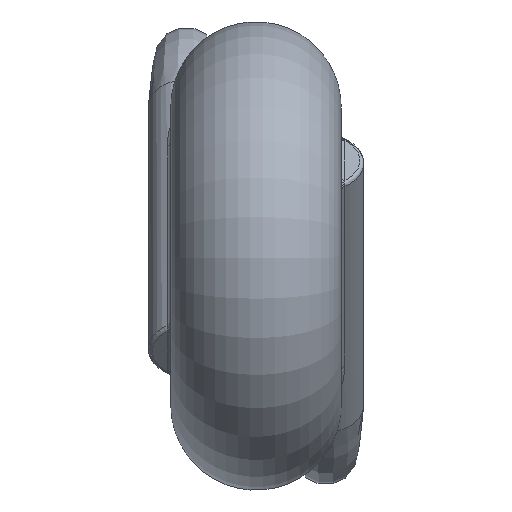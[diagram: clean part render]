
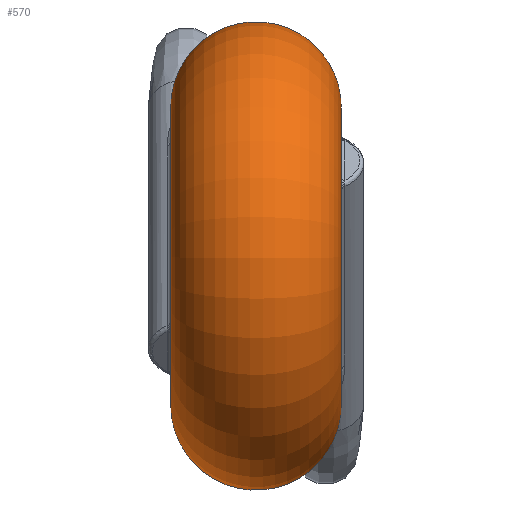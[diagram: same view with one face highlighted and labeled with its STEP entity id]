
A CAD part, left-side view. The second image highlights one B-rep face of the part: STEP entity #570.
In plain terms, the highlighted toroidal (fillet/blend) face has major radius 3.945 mm and minor radius 2.255 mm.
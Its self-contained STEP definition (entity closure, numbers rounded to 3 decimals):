
#20=TOROIDAL_SURFACE('',#632,3.945,2.255);
#81=B_SPLINE_CURVE_WITH_KNOTS('',3,(#1644,#1645,#1646,#1647,#1648,#1649,
#1650,#1651,#1652,#1653,#1654,#1655,#1656,#1657,#1658,#1659,#1660),
 .UNSPECIFIED.,.F.,.F.,(4,1,1,1,1,1,1,1,1,1,1,1,1,1,4),(-0.792,
-0.735,-0.679,-0.622,-0.565,
-0.509,-0.452,-0.396,-0.339,
-0.283,-0.226,-0.17,-0.113,
-0.057,0.),.UNSPECIFIED.);
#82=B_SPLINE_CURVE_WITH_KNOTS('',3,(#1666,#1667,#1668,#1669,#1670,#1671,
#1672,#1673,#1674,#1675,#1676,#1677,#1678,#1679,#1680,#1681),
 .UNSPECIFIED.,.F.,.F.,(4,1,1,1,1,1,1,1,1,1,1,1,1,4),(-0.792,
-0.735,-0.679,-0.565,-0.509,
-0.452,-0.396,-0.339,-0.283,
-0.226,-0.17,-0.113,-0.057,
0.),.UNSPECIFIED.);
#97=FACE_BOUND('',#171,.T.);
#129=FACE_OUTER_BOUND('',#170,.T.);
#170=EDGE_LOOP('',(#453,#454));
#171=EDGE_LOOP('',(#455,#456));
#215=CIRCLE('',#633,3.945);
#216=CIRCLE('',#634,3.945);
#259=VERTEX_POINT('',#1554);
#260=VERTEX_POINT('',#1642);
#261=VERTEX_POINT('',#1664);
#262=VERTEX_POINT('',#1665);
#330=EDGE_CURVE('',#260,#259,#81,.T.);
#332=EDGE_CURVE('',#261,#262,#82,.T.);
#333=EDGE_CURVE('',#261,#262,#215,.T.);
#334=EDGE_CURVE('',#260,#259,#216,.T.);
#453=ORIENTED_EDGE('',*,*,#332,.T.);
#454=ORIENTED_EDGE('',*,*,#333,.F.);
#455=ORIENTED_EDGE('',*,*,#330,.T.);
#456=ORIENTED_EDGE('',*,*,#334,.F.);
#570=ADVANCED_FACE('',(#129,#97),#20,.T.);
#632=AXIS2_PLACEMENT_3D('',#1663,#759,#760);
#633=AXIS2_PLACEMENT_3D('',#1682,#761,#762);
#634=AXIS2_PLACEMENT_3D('',#1683,#763,#764);
#759=DIRECTION('center_axis',(0.,1.,0.));
#760=DIRECTION('ref_axis',(1.,0.,0.));
#761=DIRECTION('center_axis',(0.,-1.,0.));
#762=DIRECTION('ref_axis',(-1.,0.,0.));
#763=DIRECTION('center_axis',(0.,1.,0.));
#764=DIRECTION('ref_axis',(-1.,0.,0.));
#1554=CARTESIAN_POINT('',(2.52,3.7,3.035));
#1642=CARTESIAN_POINT('',(3.722,3.7,1.307));
#1644=CARTESIAN_POINT('Ctrl Pts',(3.722,3.7,1.307));
#1645=CARTESIAN_POINT('Ctrl Pts',(3.843,3.7,1.435));
#1646=CARTESIAN_POINT('Ctrl Pts',(4.099,3.667,1.675));
#1647=CARTESIAN_POINT('Ctrl Pts',(4.497,3.504,1.975));
#1648=CARTESIAN_POINT('Ctrl Pts',(4.853,3.234,2.249));
#1649=CARTESIAN_POINT('Ctrl Pts',(5.109,2.881,2.545));
#1650=CARTESIAN_POINT('Ctrl Pts',(5.207,2.492,2.9));
#1651=CARTESIAN_POINT('Ctrl Pts',(5.108,2.161,3.326));
#1652=CARTESIAN_POINT('Ctrl Pts',(4.829,2.003,3.788));
#1653=CARTESIAN_POINT('Ctrl Pts',(4.447,2.091,4.198));
#1654=CARTESIAN_POINT('Ctrl Pts',(4.051,2.408,4.428));
#1655=CARTESIAN_POINT('Ctrl Pts',(3.707,2.823,4.402));
#1656=CARTESIAN_POINT('Ctrl Pts',(3.419,3.199,4.172));
#1657=CARTESIAN_POINT('Ctrl Pts',(3.154,3.483,3.821));
#1658=CARTESIAN_POINT('Ctrl Pts',(2.87,3.66,3.419));
#1659=CARTESIAN_POINT('Ctrl Pts',(2.643,3.7,3.157));
#1660=CARTESIAN_POINT('Ctrl Pts',(2.52,3.7,3.035));
#1663=CARTESIAN_POINT('Origin',(0.,1.445,0.));
#1664=CARTESIAN_POINT('',(3.722,-0.81,-1.307));
#1665=CARTESIAN_POINT('',(2.52,-0.81,-3.035));
#1666=CARTESIAN_POINT('Ctrl Pts',(3.722,-0.81,-1.307));
#1667=CARTESIAN_POINT('Ctrl Pts',(3.843,-0.81,-1.435));
#1668=CARTESIAN_POINT('Ctrl Pts',(4.099,-0.776,-1.675));
#1669=CARTESIAN_POINT('Ctrl Pts',(4.63,-0.562,-2.074));
#1670=CARTESIAN_POINT('Ctrl Pts',(5.076,-0.123,-2.427));
#1671=CARTESIAN_POINT('Ctrl Pts',(5.207,0.398,-2.9));
#1672=CARTESIAN_POINT('Ctrl Pts',(5.108,0.728,-3.325));
#1673=CARTESIAN_POINT('Ctrl Pts',(4.829,0.886,-3.788));
#1674=CARTESIAN_POINT('Ctrl Pts',(4.448,0.798,-4.197));
#1675=CARTESIAN_POINT('Ctrl Pts',(4.051,0.482,-4.428));
#1676=CARTESIAN_POINT('Ctrl Pts',(3.707,0.067,-4.403));
#1677=CARTESIAN_POINT('Ctrl Pts',(3.419,-0.309,-4.172));
#1678=CARTESIAN_POINT('Ctrl Pts',(3.154,-0.593,-3.821));
#1679=CARTESIAN_POINT('Ctrl Pts',(2.87,-0.77,-3.419));
#1680=CARTESIAN_POINT('Ctrl Pts',(2.643,-0.81,-3.157));
#1681=CARTESIAN_POINT('Ctrl Pts',(2.52,-0.81,-3.035));
#1682=CARTESIAN_POINT('Origin',(0.,-0.81,0.));
#1683=CARTESIAN_POINT('Origin',(0.,3.7,0.));
